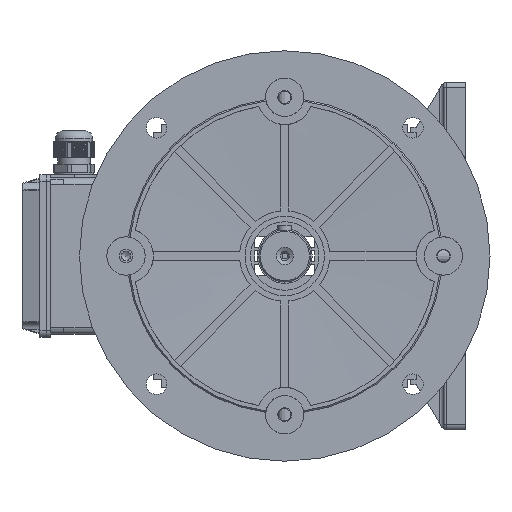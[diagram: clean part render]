
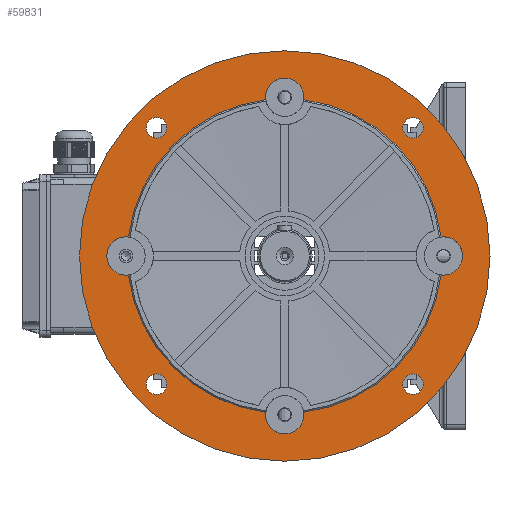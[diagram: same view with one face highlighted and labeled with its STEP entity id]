
A CAD part, left-side view. The second image highlights one B-rep face of the part: STEP entity #59831.
In plain terms, the highlighted planar face has unit normal (-1, 0, 0).
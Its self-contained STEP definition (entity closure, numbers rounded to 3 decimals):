
#1732=PLANE('',#64437);
#2572=FACE_BOUND('',#11527,.T.);
#2573=FACE_BOUND('',#11528,.T.);
#2574=FACE_BOUND('',#11529,.T.);
#2575=FACE_BOUND('',#11530,.T.);
#2576=FACE_BOUND('',#11531,.T.);
#7836=FACE_OUTER_BOUND('',#11526,.T.);
#11526=EDGE_LOOP('',(#53321,#53322));
#11527=EDGE_LOOP('',(#53323,#53324));
#11528=EDGE_LOOP('',(#53325,#53326));
#11529=EDGE_LOOP('',(#53327,#53328));
#11530=EDGE_LOOP('',(#53329,#53330));
#11531=EDGE_LOOP('',(#53331,#53332,#53333,#53334,#53335,#53336,#53337,#53338,
#53339,#53340,#53341));
#23983=CIRCLE('',#64037,14.);
#23985=CIRCLE('',#64039,14.);
#23992=CIRCLE('',#64048,14.);
#23994=CIRCLE('',#64050,14.);
#24001=CIRCLE('',#64059,14.);
#24003=CIRCLE('',#64061,14.);
#24006=CIRCLE('',#64066,7.5);
#24007=CIRCLE('',#64067,7.5);
#24010=CIRCLE('',#64071,7.5);
#24011=CIRCLE('',#64072,7.5);
#24014=CIRCLE('',#64076,7.5);
#24015=CIRCLE('',#64077,7.5);
#24027=CIRCLE('',#64092,14.);
#24029=CIRCLE('',#64095,7.5);
#24030=CIRCLE('',#64096,7.5);
#24073=CIRCLE('',#64173,150.);
#24074=CIRCLE('',#64174,150.);
#24125=CIRCLE('',#64243,115.);
#24138=CIRCLE('',#64258,115.);
#24140=CIRCLE('',#64261,115.);
#24256=CIRCLE('',#64436,115.);
#28925=VERTEX_POINT('',#139691);
#28926=VERTEX_POINT('',#139693);
#28931=VERTEX_POINT('',#139709);
#28938=VERTEX_POINT('',#139727);
#28939=VERTEX_POINT('',#139729);
#28944=VERTEX_POINT('',#139745);
#28951=VERTEX_POINT('',#139763);
#28952=VERTEX_POINT('',#139765);
#28957=VERTEX_POINT('',#139781);
#28966=VERTEX_POINT('',#139836);
#28967=VERTEX_POINT('',#139837);
#28970=VERTEX_POINT('',#139846);
#28971=VERTEX_POINT('',#139847);
#28974=VERTEX_POINT('',#139856);
#28975=VERTEX_POINT('',#139857);
#28991=VERTEX_POINT('',#139898);
#28992=VERTEX_POINT('',#139900);
#28995=VERTEX_POINT('',#139911);
#28996=VERTEX_POINT('',#139912);
#29086=VERTEX_POINT('',#140156);
#29087=VERTEX_POINT('',#140157);
#37075=EDGE_CURVE('',#28926,#28925,#23983,.T.);
#37081=EDGE_CURVE('',#28925,#28931,#23985,.T.);
#37090=EDGE_CURVE('',#28939,#28938,#23992,.T.);
#37096=EDGE_CURVE('',#28938,#28944,#23994,.T.);
#37105=EDGE_CURVE('',#28952,#28951,#24001,.T.);
#37111=EDGE_CURVE('',#28951,#28957,#24003,.T.);
#37120=EDGE_CURVE('',#28966,#28967,#24006,.T.);
#37121=EDGE_CURVE('',#28967,#28966,#24007,.T.);
#37125=EDGE_CURVE('',#28970,#28971,#24010,.T.);
#37126=EDGE_CURVE('',#28971,#28970,#24011,.T.);
#37130=EDGE_CURVE('',#28974,#28975,#24014,.T.);
#37131=EDGE_CURVE('',#28975,#28974,#24015,.T.);
#37150=EDGE_CURVE('',#28992,#28991,#24027,.T.);
#37154=EDGE_CURVE('',#28995,#28996,#24029,.T.);
#37155=EDGE_CURVE('',#28996,#28995,#24030,.T.);
#37250=EDGE_CURVE('',#29086,#29087,#24073,.T.);
#37251=EDGE_CURVE('',#29087,#29086,#24074,.T.);
#37339=EDGE_CURVE('',#28926,#28991,#24125,.T.);
#37352=EDGE_CURVE('',#28939,#28931,#24138,.T.);
#37354=EDGE_CURVE('',#28952,#28944,#24140,.T.);
#37619=EDGE_CURVE('',#28992,#28957,#24256,.T.);
#53321=ORIENTED_EDGE('',*,*,#37250,.T.);
#53322=ORIENTED_EDGE('',*,*,#37251,.T.);
#53323=ORIENTED_EDGE('',*,*,#37120,.T.);
#53324=ORIENTED_EDGE('',*,*,#37121,.T.);
#53325=ORIENTED_EDGE('',*,*,#37125,.T.);
#53326=ORIENTED_EDGE('',*,*,#37126,.T.);
#53327=ORIENTED_EDGE('',*,*,#37130,.T.);
#53328=ORIENTED_EDGE('',*,*,#37131,.T.);
#53329=ORIENTED_EDGE('',*,*,#37154,.T.);
#53330=ORIENTED_EDGE('',*,*,#37155,.T.);
#53331=ORIENTED_EDGE('',*,*,#37339,.F.);
#53332=ORIENTED_EDGE('',*,*,#37075,.T.);
#53333=ORIENTED_EDGE('',*,*,#37081,.T.);
#53334=ORIENTED_EDGE('',*,*,#37352,.F.);
#53335=ORIENTED_EDGE('',*,*,#37090,.T.);
#53336=ORIENTED_EDGE('',*,*,#37096,.T.);
#53337=ORIENTED_EDGE('',*,*,#37354,.F.);
#53338=ORIENTED_EDGE('',*,*,#37105,.T.);
#53339=ORIENTED_EDGE('',*,*,#37111,.T.);
#53340=ORIENTED_EDGE('',*,*,#37619,.F.);
#53341=ORIENTED_EDGE('',*,*,#37150,.T.);
#59831=ADVANCED_FACE('',(#7836,#2572,#2573,#2574,#2575,#2576),#1732,.F.);
#64037=AXIS2_PLACEMENT_3D('',#139694,#76267,#76268);
#64039=AXIS2_PLACEMENT_3D('',#139711,#76273,#76274);
#64048=AXIS2_PLACEMENT_3D('',#139730,#76293,#76294);
#64050=AXIS2_PLACEMENT_3D('',#139747,#76299,#76300);
#64059=AXIS2_PLACEMENT_3D('',#139766,#76319,#76320);
#64061=AXIS2_PLACEMENT_3D('',#139783,#76325,#76326);
#64066=AXIS2_PLACEMENT_3D('',#139838,#76339,#76340);
#64067=AXIS2_PLACEMENT_3D('',#139839,#76341,#76342);
#64071=AXIS2_PLACEMENT_3D('',#139848,#76350,#76351);
#64072=AXIS2_PLACEMENT_3D('',#139849,#76352,#76353);
#64076=AXIS2_PLACEMENT_3D('',#139858,#76361,#76362);
#64077=AXIS2_PLACEMENT_3D('',#139859,#76363,#76364);
#64092=AXIS2_PLACEMENT_3D('',#139901,#76399,#76400);
#64095=AXIS2_PLACEMENT_3D('',#139913,#76406,#76407);
#64096=AXIS2_PLACEMENT_3D('',#139914,#76408,#76409);
#64173=AXIS2_PLACEMENT_3D('',#140158,#76584,#76585);
#64174=AXIS2_PLACEMENT_3D('',#140159,#76586,#76587);
#64243=AXIS2_PLACEMENT_3D('',#140477,#76742,#76743);
#64258=AXIS2_PLACEMENT_3D('',#140498,#76772,#76773);
#64261=AXIS2_PLACEMENT_3D('',#140501,#76778,#76779);
#64436=AXIS2_PLACEMENT_3D('',#141174,#77217,#77218);
#64437=AXIS2_PLACEMENT_3D('',#141175,#77219,#77220);
#76267=DIRECTION('center_axis',(1.,0.,0.));
#76268=DIRECTION('ref_axis',(0.,0.,-1.));
#76273=DIRECTION('center_axis',(1.,0.,0.));
#76274=DIRECTION('ref_axis',(0.,0.,-1.));
#76293=DIRECTION('center_axis',(1.,0.,0.));
#76294=DIRECTION('ref_axis',(0.,0.,-1.));
#76299=DIRECTION('center_axis',(1.,0.,0.));
#76300=DIRECTION('ref_axis',(0.,0.,-1.));
#76319=DIRECTION('center_axis',(1.,0.,0.));
#76320=DIRECTION('ref_axis',(0.,0.,-1.));
#76325=DIRECTION('center_axis',(1.,0.,0.));
#76326=DIRECTION('ref_axis',(0.,0.,-1.));
#76339=DIRECTION('center_axis',(1.,0.,0.));
#76340=DIRECTION('ref_axis',(0.,0.,-1.));
#76341=DIRECTION('center_axis',(1.,0.,0.));
#76342=DIRECTION('ref_axis',(0.,0.,-1.));
#76350=DIRECTION('center_axis',(1.,0.,0.));
#76351=DIRECTION('ref_axis',(0.,0.,-1.));
#76352=DIRECTION('center_axis',(1.,0.,0.));
#76353=DIRECTION('ref_axis',(0.,0.,-1.));
#76361=DIRECTION('center_axis',(1.,0.,0.));
#76362=DIRECTION('ref_axis',(0.,0.,-1.));
#76363=DIRECTION('center_axis',(1.,0.,0.));
#76364=DIRECTION('ref_axis',(0.,0.,-1.));
#76399=DIRECTION('center_axis',(1.,0.,0.));
#76400=DIRECTION('ref_axis',(0.,0.,-1.));
#76406=DIRECTION('center_axis',(1.,0.,0.));
#76407=DIRECTION('ref_axis',(0.,0.,-1.));
#76408=DIRECTION('center_axis',(1.,0.,0.));
#76409=DIRECTION('ref_axis',(0.,0.,-1.));
#76584=DIRECTION('center_axis',(-1.,0.,0.));
#76585=DIRECTION('ref_axis',(0.,0.,1.));
#76586=DIRECTION('center_axis',(-1.,0.,0.));
#76587=DIRECTION('ref_axis',(0.,0.,1.));
#76742=DIRECTION('center_axis',(-1.,0.,0.));
#76743=DIRECTION('ref_axis',(0.,0.,1.));
#76772=DIRECTION('center_axis',(-1.,0.,0.));
#76773=DIRECTION('ref_axis',(0.,0.,1.));
#76778=DIRECTION('center_axis',(-1.,0.,0.));
#76779=DIRECTION('ref_axis',(0.,0.,1.));
#77217=DIRECTION('center_axis',(-1.,0.,0.));
#77218=DIRECTION('ref_axis',(0.,0.,1.));
#77219=DIRECTION('center_axis',(1.,0.,0.));
#77220=DIRECTION('ref_axis',(0.,0.,-1.));
#139691=CARTESIAN_POINT('',(-18.,-116.,-14.));
#139693=CARTESIAN_POINT('',(-18.,-114.159,13.878));
#139694=CARTESIAN_POINT('Origin',(-18.,-116.,0.));
#139709=CARTESIAN_POINT('',(-18.,-114.159,-13.878));
#139711=CARTESIAN_POINT('Origin',(-18.,-116.,0.));
#139727=CARTESIAN_POINT('',(-18.,0.,-130.));
#139729=CARTESIAN_POINT('',(-18.,-13.878,-114.159));
#139730=CARTESIAN_POINT('Origin',(-18.,0.,-116.));
#139745=CARTESIAN_POINT('',(-18.,13.878,-114.159));
#139747=CARTESIAN_POINT('Origin',(-18.,0.,-116.));
#139763=CARTESIAN_POINT('',(-18.,116.,-14.));
#139765=CARTESIAN_POINT('',(-18.,114.159,-13.878));
#139766=CARTESIAN_POINT('Origin',(-18.,116.,0.));
#139781=CARTESIAN_POINT('',(-18.,114.159,13.878));
#139783=CARTESIAN_POINT('Origin',(-18.,116.,0.));
#139836=CARTESIAN_POINT('',(-18.,-93.692,86.192));
#139837=CARTESIAN_POINT('',(-18.,-93.692,101.192));
#139838=CARTESIAN_POINT('Origin',(-18.,-93.692,93.692));
#139839=CARTESIAN_POINT('Origin',(-18.,-93.692,93.692));
#139846=CARTESIAN_POINT('',(-18.,-93.692,-101.192));
#139847=CARTESIAN_POINT('',(-18.,-93.692,-86.192));
#139848=CARTESIAN_POINT('Origin',(-18.,-93.692,-93.692));
#139849=CARTESIAN_POINT('Origin',(-18.,-93.692,-93.692));
#139856=CARTESIAN_POINT('',(-18.,93.692,-101.192));
#139857=CARTESIAN_POINT('',(-18.,93.692,-86.192));
#139858=CARTESIAN_POINT('Origin',(-18.,93.692,-93.692));
#139859=CARTESIAN_POINT('Origin',(-18.,93.692,-93.692));
#139898=CARTESIAN_POINT('',(-18.,-13.878,114.159));
#139900=CARTESIAN_POINT('',(-18.,13.878,114.159));
#139901=CARTESIAN_POINT('Origin',(-18.,0.,116.));
#139911=CARTESIAN_POINT('',(-18.,93.692,86.192));
#139912=CARTESIAN_POINT('',(-18.,93.692,101.192));
#139913=CARTESIAN_POINT('Origin',(-18.,93.692,93.692));
#139914=CARTESIAN_POINT('Origin',(-18.,93.692,93.692));
#140156=CARTESIAN_POINT('',(-18.,0.,150.));
#140157=CARTESIAN_POINT('',(-18.,0.,-150.));
#140158=CARTESIAN_POINT('Origin',(-18.,0.,0.));
#140159=CARTESIAN_POINT('Origin',(-18.,0.,0.));
#140477=CARTESIAN_POINT('Origin',(-18.,0.,0.));
#140498=CARTESIAN_POINT('Origin',(-18.,0.,0.));
#140501=CARTESIAN_POINT('Origin',(-18.,0.,0.));
#141174=CARTESIAN_POINT('Origin',(-18.,0.,0.));
#141175=CARTESIAN_POINT('Origin',(-18.,115.,0.));
